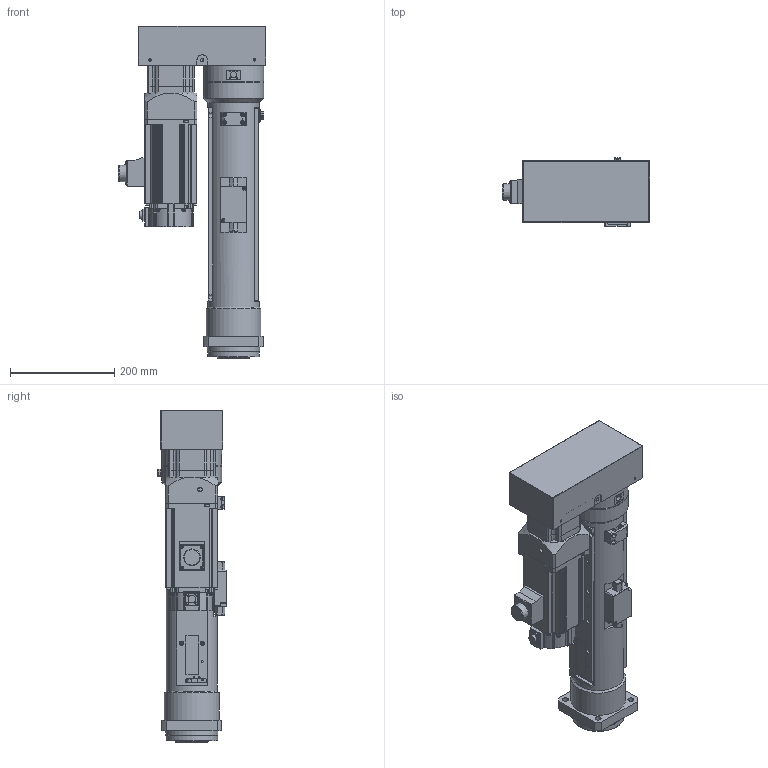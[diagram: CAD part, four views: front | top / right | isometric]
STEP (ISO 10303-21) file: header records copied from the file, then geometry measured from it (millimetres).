
FILE_DESCRIPTION( ('This file contains a STEP AP42 implementation' ,'as created by ZW3D STEP Interface translator.') ,'2;1' );
FILE_NAME( 'OACIS-DC-P015-300-250-A6_V20.01.stp' ,'25 3 8. 92554', (''), ('ZWCAD Software Co.'), 'Version 1.0', 'ZW3D to STEP translator', '' );
FILE_SCHEMA(('AUTOMOTIVE_DESIGN { 1 0 10303 214 1 1 1 1 }'));
Length unit declared in the file: millimetre
Products named in the file (2): 0; OACIS-DC-P015-300-250-A6_V20.01
Bounding box: 283 x 131.5 x 635.5 mm (x, y, z)
Volume: 6515757.8 mm3; surface area: 1120115.7 mm2
Topology: 16 solids, 32 shells, 1633 faces, 4144 edges, 2718 vertices
Faces by surface type: cylinder 657, plane 652, cone 152, bspline 118, torus 38, sphere 16
Full cylindrical faces by diameter (mm): 1.6 x8, 2.459 x1, 3.3 x114, 4.2 x4, 4.3 x30, 4.5 x4, 5 x24, 5.5 x6, 6.5 x4, 6.8 x36, 7 x12, 8 x40, 8.4 x8, 8.5 x17, 9 x4, 9.5 x2, 11 x4, 12 x1, 14.8 x1, 15 x8, 15.5 x2, 16.5 x1, 18 x2, 19 x1, 25.4 x2, 26 x1, 27 x1, 29.74 x1, 35 x1, 40 x2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
Entity records: 54438 total; most frequent: CARTESIAN_POINT 13357, DIRECTION 8233, ORIENTED_EDGE 8018, EDGE_CURVE 4022, AXIS2_PLACEMENT_3D 3074, VERTEX_POINT 2643, VECTOR 2085, LINE 2085
